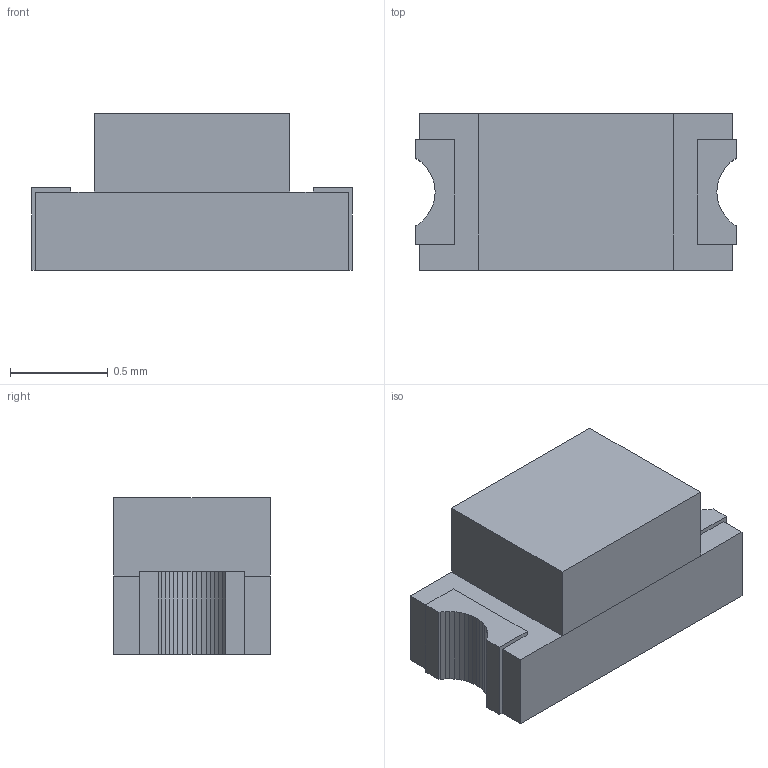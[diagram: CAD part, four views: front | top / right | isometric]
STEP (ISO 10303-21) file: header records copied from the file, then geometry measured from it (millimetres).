
FILE_DESCRIPTION(('FreeCAD Model'),'2;1');
FILE_NAME('Open CASCADE Shape Model','2021-06-28T19:32:21',('Author'),( ''),'Open CASCADE STEP processor 7.5','FreeCAD','Unknown');
FILE_SCHEMA(('AUTOMOTIVE_DESIGN { 1 0 10303 214 1 1 1 1 }'));
Length unit declared in the file: millimetre
Products named in the file (1): Group
Bounding box: 1.64 x 0.8 x 0.8 mm (x, y, z)
Volume: 0.8 mm3; surface area: 6 mm2
Topology: 1 solids, 1 shells, 66 faces, 222 edges, 158 vertices
Faces by surface type: plane 66
Entity records: 5571 total; most frequent: CARTESIAN_POINT 1099, DIRECTION 592, LINE 458, VECTOR 458, ORIENTED_EDGE 444, PCURVE 444, DEFINITIONAL_REPRESENTATION 444, EDGE_CURVE 222
